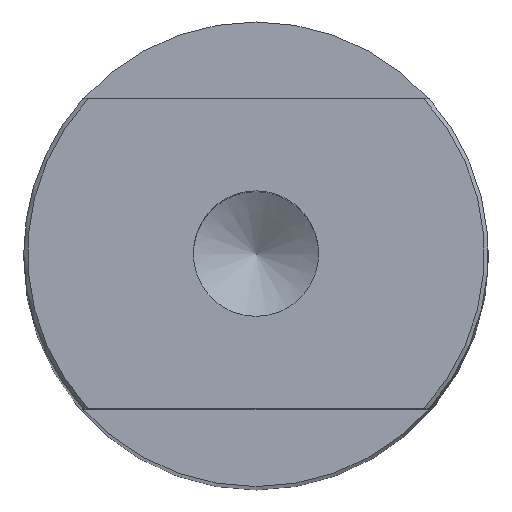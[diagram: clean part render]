
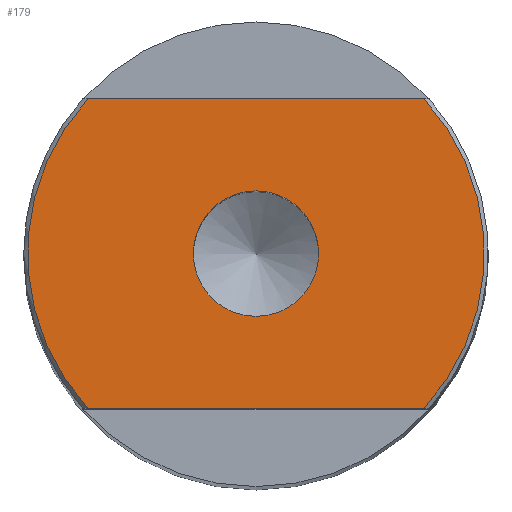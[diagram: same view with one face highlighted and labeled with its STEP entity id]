
A CAD part, top view. The second image highlights one B-rep face of the part: STEP entity #179.
In plain terms, the highlighted planar face has unit normal (0, 0, 1).
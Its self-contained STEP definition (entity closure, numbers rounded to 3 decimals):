
#21=FACE_BOUND('',#52,.T.);
#37=FACE_OUTER_BOUND('',#51,.T.);
#51=EDGE_LOOP('',(#153,#154,#155,#156));
#52=EDGE_LOOP('',(#157));
#59=LINE('',#275,#67);
#63=LINE('',#294,#71);
#67=VECTOR('',#217,8.674);
#71=VECTOR('',#227,8.674);
#78=CIRCLE('',#196,5.9);
#80=CIRCLE('',#200,1.621);
#81=CIRCLE('',#202,5.9);
#86=VERTEX_POINT('',#270);
#87=VERTEX_POINT('',#274);
#92=VERTEX_POINT('',#289);
#93=VERTEX_POINT('',#293);
#97=VERTEX_POINT('',#311);
#103=EDGE_CURVE('',#87,#86,#59,.T.);
#110=EDGE_CURVE('',#93,#92,#63,.T.);
#116=EDGE_CURVE('',#87,#92,#78,.T.);
#118=EDGE_CURVE('',#97,#97,#80,.T.);
#119=EDGE_CURVE('',#93,#86,#81,.T.);
#153=ORIENTED_EDGE('',*,*,#103,.T.);
#154=ORIENTED_EDGE('',*,*,#119,.F.);
#155=ORIENTED_EDGE('',*,*,#110,.T.);
#156=ORIENTED_EDGE('',*,*,#116,.F.);
#157=ORIENTED_EDGE('',*,*,#118,.T.);
#169=PLANE('',#201);
#179=ADVANCED_FACE('',(#37,#21),#169,.T.);
#196=AXIS2_PLACEMENT_3D('',#306,#239,#240);
#200=AXIS2_PLACEMENT_3D('',#312,#247,#248);
#201=AXIS2_PLACEMENT_3D('',#313,#249,#250);
#202=AXIS2_PLACEMENT_3D('',#314,#251,#252);
#217=DIRECTION('',(-1.,0.,0.));
#227=DIRECTION('',(1.,0.,0.));
#239=DIRECTION('center_axis',(0.,0.,-1.));
#240=DIRECTION('ref_axis',(1.,0.,0.));
#247=DIRECTION('center_axis',(0.,0.,-1.));
#248=DIRECTION('ref_axis',(1.,0.,0.));
#249=DIRECTION('center_axis',(0.,0.,1.));
#250=DIRECTION('ref_axis',(1.,0.,0.));
#251=DIRECTION('center_axis',(0.,0.,-1.));
#252=DIRECTION('ref_axis',(1.,0.,0.));
#270=CARTESIAN_POINT('',(-4.337,4.,31.));
#274=CARTESIAN_POINT('',(4.337,4.,31.));
#275=CARTESIAN_POINT('',(0.8,4.,31.));
#289=CARTESIAN_POINT('',(4.337,-4.,31.));
#293=CARTESIAN_POINT('',(-4.337,-4.,31.));
#294=CARTESIAN_POINT('',(-6.7,-4.,31.));
#306=CARTESIAN_POINT('Origin',(0.,0.,31.));
#311=CARTESIAN_POINT('',(1.621,0.,31.));
#312=CARTESIAN_POINT('Origin',(0.,0.,31.));
#313=CARTESIAN_POINT('Origin',(-5.9,0.,31.));
#314=CARTESIAN_POINT('Origin',(0.,0.,31.));
